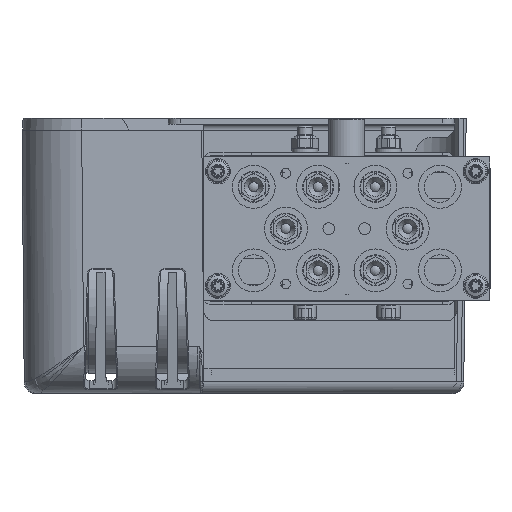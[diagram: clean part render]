
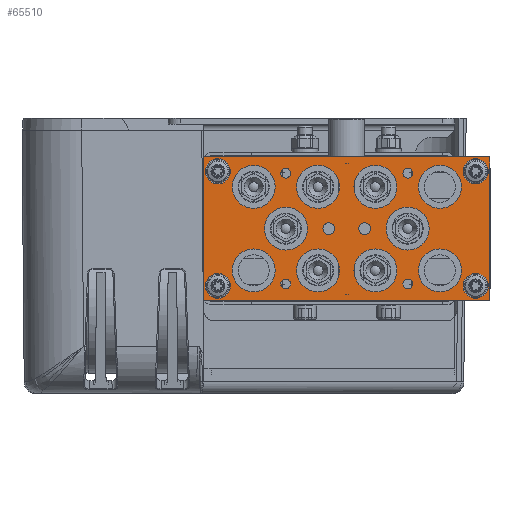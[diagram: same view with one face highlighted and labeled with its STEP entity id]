
A CAD part, left-side view. The second image highlights one B-rep face of the part: STEP entity #65510.
In plain terms, the highlighted planar face has unit normal (-1, 0, 0) as drawn and (0, 0, 1) by its records, which use the part's own axes.
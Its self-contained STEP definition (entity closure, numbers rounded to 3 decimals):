
#5912=LINE('',#113003,#8625);
#5916=LINE('',#113014,#8629);
#5920=LINE('',#113159,#8633);
#5921=LINE('',#113160,#8634);
#8625=VECTOR('',#76482,1000.);
#8629=VECTOR('',#76490,1000.);
#8633=VECTOR('',#76650,1000.);
#8634=VECTOR('',#76651,1000.);
#10739=PLANE('',#69443);
#16166=ORIENTED_EDGE('',*,*,#29792,.F.);
#16167=ORIENTED_EDGE('',*,*,#29793,.F.);
#16168=ORIENTED_EDGE('',*,*,#29794,.F.);
#16169=ORIENTED_EDGE('',*,*,#29795,.F.);
#16170=ORIENTED_EDGE('',*,*,#29796,.F.);
#16171=ORIENTED_EDGE('',*,*,#29797,.F.);
#16172=ORIENTED_EDGE('',*,*,#29798,.T.);
#16173=ORIENTED_EDGE('',*,*,#29799,.T.);
#16174=ORIENTED_EDGE('',*,*,#29800,.T.);
#16175=ORIENTED_EDGE('',*,*,#29801,.T.);
#16176=ORIENTED_EDGE('',*,*,#29802,.T.);
#16177=ORIENTED_EDGE('',*,*,#29803,.T.);
#16178=ORIENTED_EDGE('',*,*,#29804,.T.);
#16179=ORIENTED_EDGE('',*,*,#29734,.T.);
#16180=ORIENTED_EDGE('',*,*,#29805,.T.);
#16181=ORIENTED_EDGE('',*,*,#29739,.T.);
#16182=ORIENTED_EDGE('',*,*,#29806,.T.);
#16183=ORIENTED_EDGE('',*,*,#29807,.T.);
#16184=ORIENTED_EDGE('',*,*,#29808,.T.);
#16185=ORIENTED_EDGE('',*,*,#29809,.T.);
#16186=ORIENTED_EDGE('',*,*,#29810,.T.);
#16187=ORIENTED_EDGE('',*,*,#29811,.T.);
#16188=ORIENTED_EDGE('',*,*,#29812,.T.);
#16189=ORIENTED_EDGE('',*,*,#29813,.T.);
#29734=EDGE_CURVE('',#36832,#36831,#5912,.T.);
#29739=EDGE_CURVE('',#36837,#36836,#5916,.T.);
#29792=EDGE_CURVE('',#36887,#36887,#41332,.T.);
#29793=EDGE_CURVE('',#36888,#36888,#41333,.T.);
#29794=EDGE_CURVE('',#36889,#36889,#41334,.T.);
#29795=EDGE_CURVE('',#36890,#36890,#41335,.T.);
#29796=EDGE_CURVE('',#36891,#36891,#41336,.T.);
#29797=EDGE_CURVE('',#36892,#36892,#41337,.T.);
#29798=EDGE_CURVE('',#36893,#36893,#41338,.T.);
#29799=EDGE_CURVE('',#36894,#36894,#41339,.T.);
#29800=EDGE_CURVE('',#36895,#36895,#41340,.T.);
#29801=EDGE_CURVE('',#36896,#36896,#41341,.T.);
#29802=EDGE_CURVE('',#36897,#36897,#41342,.T.);
#29803=EDGE_CURVE('',#36898,#36898,#41343,.T.);
#29804=EDGE_CURVE('',#36899,#36899,#41344,.T.);
#29805=EDGE_CURVE('',#36831,#36837,#5920,.T.);
#29806=EDGE_CURVE('',#36836,#36832,#5921,.T.);
#29807=EDGE_CURVE('',#36900,#36900,#41345,.T.);
#29808=EDGE_CURVE('',#36901,#36901,#41346,.T.);
#29809=EDGE_CURVE('',#36902,#36902,#41347,.T.);
#29810=EDGE_CURVE('',#36903,#36903,#41348,.T.);
#29811=EDGE_CURVE('',#36904,#36904,#41349,.T.);
#29812=EDGE_CURVE('',#36905,#36905,#41350,.T.);
#29813=EDGE_CURVE('',#36906,#36906,#41351,.T.);
#36831=VERTEX_POINT('',#113002);
#36832=VERTEX_POINT('',#113004);
#36836=VERTEX_POINT('',#113013);
#36837=VERTEX_POINT('',#113015);
#36887=VERTEX_POINT('',#113134);
#36888=VERTEX_POINT('',#113136);
#36889=VERTEX_POINT('',#113138);
#36890=VERTEX_POINT('',#113140);
#36891=VERTEX_POINT('',#113142);
#36892=VERTEX_POINT('',#113144);
#36893=VERTEX_POINT('',#113146);
#36894=VERTEX_POINT('',#113148);
#36895=VERTEX_POINT('',#113150);
#36896=VERTEX_POINT('',#113152);
#36897=VERTEX_POINT('',#113154);
#36898=VERTEX_POINT('',#113156);
#36899=VERTEX_POINT('',#113158);
#36900=VERTEX_POINT('',#113162);
#36901=VERTEX_POINT('',#113164);
#36902=VERTEX_POINT('',#113166);
#36903=VERTEX_POINT('',#113168);
#36904=VERTEX_POINT('',#113170);
#36905=VERTEX_POINT('',#113172);
#36906=VERTEX_POINT('',#113174);
#41332=CIRCLE('',#69444,2.067);
#41333=CIRCLE('',#69445,2.067);
#41334=CIRCLE('',#69446,2.067);
#41335=CIRCLE('',#69447,2.067);
#41336=CIRCLE('',#69448,2.459);
#41337=CIRCLE('',#69449,2.459);
#41338=CIRCLE('',#69450,9.);
#41339=CIRCLE('',#69451,9.);
#41340=CIRCLE('',#69452,9.);
#41341=CIRCLE('',#69453,9.);
#41342=CIRCLE('',#69454,9.);
#41343=CIRCLE('',#69455,5.25);
#41344=CIRCLE('',#69456,5.25);
#41345=CIRCLE('',#69457,5.25);
#41346=CIRCLE('',#69458,9.);
#41347=CIRCLE('',#69459,9.);
#41348=CIRCLE('',#69460,9.);
#41349=CIRCLE('',#69461,9.);
#41350=CIRCLE('',#69462,9.);
#41351=CIRCLE('',#69463,5.25);
#43866=EDGE_LOOP('',(#16166));
#43867=EDGE_LOOP('',(#16167));
#43868=EDGE_LOOP('',(#16168));
#43869=EDGE_LOOP('',(#16169));
#43870=EDGE_LOOP('',(#16170));
#43871=EDGE_LOOP('',(#16171));
#43872=EDGE_LOOP('',(#16172));
#43873=EDGE_LOOP('',(#16173));
#43874=EDGE_LOOP('',(#16174));
#43875=EDGE_LOOP('',(#16175));
#43876=EDGE_LOOP('',(#16176));
#43877=EDGE_LOOP('',(#16177));
#43878=EDGE_LOOP('',(#16178));
#43879=EDGE_LOOP('',(#16179,#16180,#16181,#16182));
#43880=EDGE_LOOP('',(#16183));
#43881=EDGE_LOOP('',(#16184));
#43882=EDGE_LOOP('',(#16185));
#43883=EDGE_LOOP('',(#16186));
#43884=EDGE_LOOP('',(#16187));
#43885=EDGE_LOOP('',(#16188));
#43886=EDGE_LOOP('',(#16189));
#47862=FACE_BOUND('',#43866,.T.);
#47863=FACE_BOUND('',#43867,.T.);
#47864=FACE_BOUND('',#43868,.T.);
#47865=FACE_BOUND('',#43869,.T.);
#47866=FACE_BOUND('',#43870,.T.);
#47867=FACE_BOUND('',#43871,.T.);
#47868=FACE_BOUND('',#43872,.T.);
#47869=FACE_BOUND('',#43873,.T.);
#47870=FACE_BOUND('',#43874,.T.);
#47871=FACE_BOUND('',#43875,.T.);
#47872=FACE_BOUND('',#43876,.T.);
#47873=FACE_BOUND('',#43877,.T.);
#47874=FACE_BOUND('',#43878,.T.);
#47875=FACE_BOUND('',#43879,.T.);
#47876=FACE_BOUND('',#43880,.T.);
#47877=FACE_BOUND('',#43881,.T.);
#47878=FACE_BOUND('',#43882,.T.);
#47879=FACE_BOUND('',#43883,.T.);
#47880=FACE_BOUND('',#43884,.T.);
#47881=FACE_BOUND('',#43885,.T.);
#47882=FACE_BOUND('',#43886,.T.);
#65510=ADVANCED_FACE('',(#47862,#47863,#47864,#47865,#47866,#47867,#47868,
#47869,#47870,#47871,#47872,#47873,#47874,#47875,#47876,#47877,#47878,#47879,
#47880,#47881,#47882),#10739,.T.);
#69443=AXIS2_PLACEMENT_3D('',#113132,#76622,#76623);
#69444=AXIS2_PLACEMENT_3D('',#113133,#76624,#76625);
#69445=AXIS2_PLACEMENT_3D('',#113135,#76626,#76627);
#69446=AXIS2_PLACEMENT_3D('',#113137,#76628,#76629);
#69447=AXIS2_PLACEMENT_3D('',#113139,#76630,#76631);
#69448=AXIS2_PLACEMENT_3D('',#113141,#76632,#76633);
#69449=AXIS2_PLACEMENT_3D('',#113143,#76634,#76635);
#69450=AXIS2_PLACEMENT_3D('',#113145,#76636,#76637);
#69451=AXIS2_PLACEMENT_3D('',#113147,#76638,#76639);
#69452=AXIS2_PLACEMENT_3D('',#113149,#76640,#76641);
#69453=AXIS2_PLACEMENT_3D('',#113151,#76642,#76643);
#69454=AXIS2_PLACEMENT_3D('',#113153,#76644,#76645);
#69455=AXIS2_PLACEMENT_3D('',#113155,#76646,#76647);
#69456=AXIS2_PLACEMENT_3D('',#113157,#76648,#76649);
#69457=AXIS2_PLACEMENT_3D('',#113161,#76652,#76653);
#69458=AXIS2_PLACEMENT_3D('',#113163,#76654,#76655);
#69459=AXIS2_PLACEMENT_3D('',#113165,#76656,#76657);
#69460=AXIS2_PLACEMENT_3D('',#113167,#76658,#76659);
#69461=AXIS2_PLACEMENT_3D('',#113169,#76660,#76661);
#69462=AXIS2_PLACEMENT_3D('',#113171,#76662,#76663);
#69463=AXIS2_PLACEMENT_3D('',#113173,#76664,#76665);
#76482=DIRECTION('',(-1.,0.,0.));
#76490=DIRECTION('',(1.,0.,0.));
#76622=DIRECTION('',(0.,0.,1.));
#76623=DIRECTION('',(1.,0.,0.));
#76624=DIRECTION('',(0.,0.,1.));
#76625=DIRECTION('',(1.,0.,0.));
#76626=DIRECTION('',(0.,0.,1.));
#76627=DIRECTION('',(1.,0.,0.));
#76628=DIRECTION('',(0.,0.,1.));
#76629=DIRECTION('',(1.,0.,0.));
#76630=DIRECTION('',(0.,0.,1.));
#76631=DIRECTION('',(1.,0.,0.));
#76632=DIRECTION('',(0.,0.,1.));
#76633=DIRECTION('',(1.,0.,0.));
#76634=DIRECTION('',(0.,0.,1.));
#76635=DIRECTION('',(1.,0.,0.));
#76636=DIRECTION('',(0.,0.,-1.));
#76637=DIRECTION('',(1.,0.,0.));
#76638=DIRECTION('',(0.,0.,-1.));
#76639=DIRECTION('',(1.,0.,0.));
#76640=DIRECTION('',(0.,0.,-1.));
#76641=DIRECTION('',(1.,0.,0.));
#76642=DIRECTION('',(0.,0.,-1.));
#76643=DIRECTION('',(1.,0.,0.));
#76644=DIRECTION('',(0.,0.,-1.));
#76645=DIRECTION('',(1.,0.,0.));
#76646=DIRECTION('',(0.,0.,-1.));
#76647=DIRECTION('',(1.,0.,0.));
#76648=DIRECTION('',(0.,0.,-1.));
#76649=DIRECTION('',(1.,0.,0.));
#76650=DIRECTION('',(0.,-1.,0.));
#76651=DIRECTION('',(0.,1.,0.));
#76652=DIRECTION('',(0.,0.,-1.));
#76653=DIRECTION('',(1.,0.,0.));
#76654=DIRECTION('',(0.,0.,-1.));
#76655=DIRECTION('',(1.,0.,0.));
#76656=DIRECTION('',(0.,0.,-1.));
#76657=DIRECTION('',(1.,0.,0.));
#76658=DIRECTION('',(0.,0.,-1.));
#76659=DIRECTION('',(1.,0.,0.));
#76660=DIRECTION('',(0.,0.,-1.));
#76661=DIRECTION('',(1.,0.,0.));
#76662=DIRECTION('',(0.,0.,-1.));
#76663=DIRECTION('',(1.,0.,0.));
#76664=DIRECTION('',(0.,0.,-1.));
#76665=DIRECTION('',(1.,0.,0.));
#113002=CARTESIAN_POINT('',(-60.,30.,15.));
#113003=CARTESIAN_POINT('',(60.,30.,15.));
#113004=CARTESIAN_POINT('',(60.,30.,15.));
#113013=CARTESIAN_POINT('',(60.,-30.,15.));
#113014=CARTESIAN_POINT('',(-60.,-30.,15.));
#113015=CARTESIAN_POINT('',(-60.,-30.,15.));
#113132=CARTESIAN_POINT('',(-60.,30.,15.));
#113133=CARTESIAN_POINT('',(25.6,23.2,15.));
#113134=CARTESIAN_POINT('',(27.667,23.2,15.));
#113135=CARTESIAN_POINT('',(-25.6,23.2,15.));
#113136=CARTESIAN_POINT('',(-23.533,23.2,15.));
#113137=CARTESIAN_POINT('',(-25.6,-23.2,15.));
#113138=CARTESIAN_POINT('',(-23.533,-23.2,15.));
#113139=CARTESIAN_POINT('',(25.6,-23.2,15.));
#113140=CARTESIAN_POINT('',(27.667,-23.2,15.));
#113141=CARTESIAN_POINT('',(7.5,0.,15.));
#113142=CARTESIAN_POINT('',(9.959,0.,15.));
#113143=CARTESIAN_POINT('',(-7.5,0.,15.));
#113144=CARTESIAN_POINT('',(-5.041,0.,15.));
#113145=CARTESIAN_POINT('',(25.5,0.,15.));
#113146=CARTESIAN_POINT('',(34.5,0.,15.));
#113147=CARTESIAN_POINT('',(39.,17.5,15.));
#113148=CARTESIAN_POINT('',(48.,17.5,15.));
#113149=CARTESIAN_POINT('',(-39.,-17.5,15.));
#113150=CARTESIAN_POINT('',(-30.,-17.5,15.));
#113151=CARTESIAN_POINT('',(-12.,-17.5,15.));
#113152=CARTESIAN_POINT('',(-3.,-17.5,15.));
#113153=CARTESIAN_POINT('',(12.,17.5,15.));
#113154=CARTESIAN_POINT('',(21.,17.5,15.));
#113155=CARTESIAN_POINT('',(-54.,-24.,15.));
#113156=CARTESIAN_POINT('',(-48.75,-24.,15.));
#113157=CARTESIAN_POINT('',(54.,24.,15.));
#113158=CARTESIAN_POINT('',(59.25,24.,15.));
#113159=CARTESIAN_POINT('',(-60.,30.,15.));
#113160=CARTESIAN_POINT('',(60.,-30.,15.));
#113161=CARTESIAN_POINT('',(54.,-24.,15.));
#113162=CARTESIAN_POINT('',(59.25,-24.,15.));
#113163=CARTESIAN_POINT('',(-12.,17.5,15.));
#113164=CARTESIAN_POINT('',(-3.,17.5,15.));
#113165=CARTESIAN_POINT('',(12.,-17.5,15.));
#113166=CARTESIAN_POINT('',(21.,-17.5,15.));
#113167=CARTESIAN_POINT('',(-39.,17.5,15.));
#113168=CARTESIAN_POINT('',(-30.,17.5,15.));
#113169=CARTESIAN_POINT('',(39.,-17.5,15.));
#113170=CARTESIAN_POINT('',(48.,-17.5,15.));
#113171=CARTESIAN_POINT('',(-25.5,0.,15.));
#113172=CARTESIAN_POINT('',(-16.5,0.,15.));
#113173=CARTESIAN_POINT('',(-54.,24.,15.));
#113174=CARTESIAN_POINT('',(-48.75,24.,15.));
